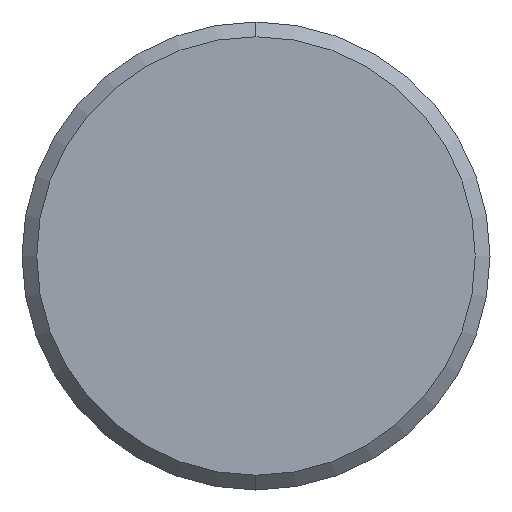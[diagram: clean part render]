
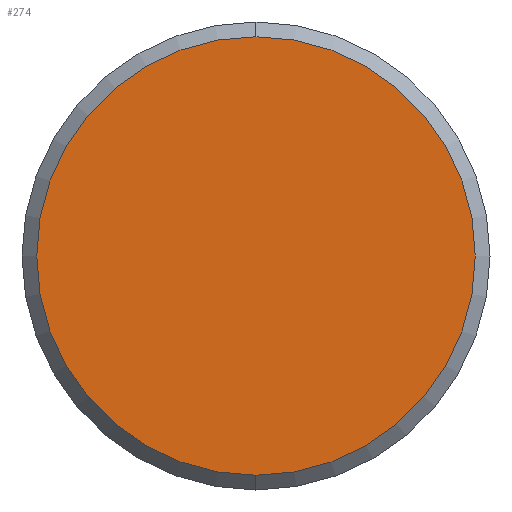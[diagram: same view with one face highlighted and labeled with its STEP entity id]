
A CAD part, left-side view. The second image highlights one B-rep face of the part: STEP entity #274.
In plain terms, the highlighted planar face has unit normal (-1, 0, 0).
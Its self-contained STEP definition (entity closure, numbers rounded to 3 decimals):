
#16 = AXIS2_PLACEMENT_3D ( 'NONE', #344, #150, #317 ) ;
#19 = PLANE ( 'NONE',  #250 ) ;
#22 = DIRECTION ( 'NONE',  ( 0., 0., -1. ) ) ;
#24 = ORIENTED_EDGE ( 'NONE', *, *, #68, .T. ) ;
#26 = DIRECTION ( 'NONE',  ( -1., 0., 0. ) ) ;
#65 = ORIENTED_EDGE ( 'NONE', *, *, #278, .T. ) ;
#68 = EDGE_CURVE ( 'NONE', #198, #276, #206, .T. ) ;
#74 = CARTESIAN_POINT ( 'NONE',  ( -193.9, 0., 14.875 ) ) ;
#83 = FACE_OUTER_BOUND ( 'NONE', #303, .T. ) ;
#150 = DIRECTION ( 'NONE',  ( -1., 0., 0. ) ) ;
#191 = DIRECTION ( 'NONE',  ( 1., 0., 0. ) ) ;
#192 = CARTESIAN_POINT ( 'NONE',  ( -193.9, 0., 0. ) ) ;
#198 = VERTEX_POINT ( 'NONE', #211 ) ;
#206 = CIRCLE ( 'NONE', #16, 14.875 ) ;
#211 = CARTESIAN_POINT ( 'NONE',  ( -193.9, 0., -14.875 ) ) ;
#217 = DIRECTION ( 'NONE',  ( 0., 0., -1. ) ) ;
#250 = AXIS2_PLACEMENT_3D ( 'NONE', #328, #191, #22 ) ;
#266 = AXIS2_PLACEMENT_3D ( 'NONE', #192, #26, #217 ) ;
#274 = ADVANCED_FACE ( 'NONE', ( #83 ), #19, .F. ) ;
#276 = VERTEX_POINT ( 'NONE', #74 ) ;
#278 = EDGE_CURVE ( 'NONE', #276, #198, #304, .T. ) ;
#303 = EDGE_LOOP ( 'NONE', ( #24, #65 ) ) ;
#304 = CIRCLE ( 'NONE', #266, 14.875 ) ;
#317 = DIRECTION ( 'NONE',  ( 0., 0., -1. ) ) ;
#328 = CARTESIAN_POINT ( 'NONE',  ( -193.9, 15.875, 0. ) ) ;
#344 = CARTESIAN_POINT ( 'NONE',  ( -193.9, 0., 0. ) ) ;
